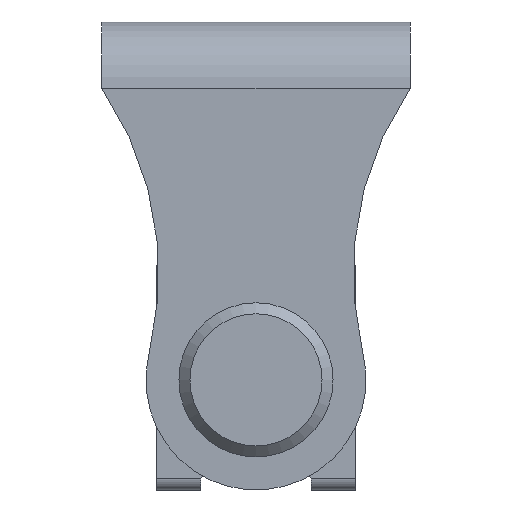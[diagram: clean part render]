
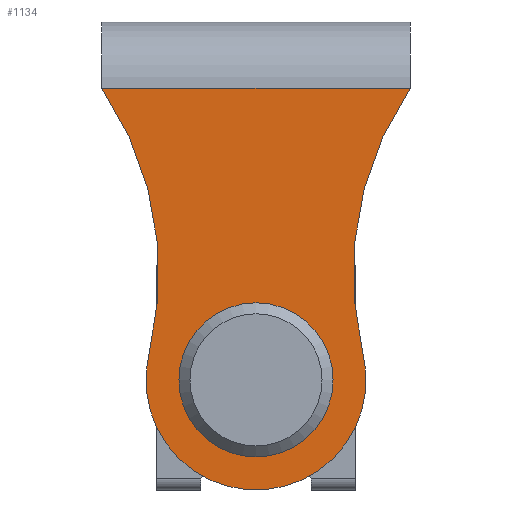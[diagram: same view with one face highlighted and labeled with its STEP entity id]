
A CAD part, left-side view. The second image highlights one B-rep face of the part: STEP entity #1134.
In plain terms, the highlighted planar face has unit normal (-1, 0, 0).
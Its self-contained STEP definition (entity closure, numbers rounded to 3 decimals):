
#50=FACE_BOUND('',#192,.T.);
#66=PLANE('',#1231);
#113=FACE_OUTER_BOUND('',#191,.T.);
#191=EDGE_LOOP('',(#836,#837,#838,#839));
#192=EDGE_LOOP('',(#840));
#262=LINE('',#1737,#355);
#355=VECTOR('',#1363,28.);
#463=CIRCLE('',#1228,5.);
#465=CIRCLE('',#1232,30.);
#466=CIRCLE('',#1233,10.);
#467=CIRCLE('',#1234,30.);
#508=VERTEX_POINT('',#1715);
#516=VERTEX_POINT('',#1735);
#531=VERTEX_POINT('',#1786);
#533=VERTEX_POINT('',#1792);
#534=VERTEX_POINT('',#1794);
#627=EDGE_CURVE('',#516,#508,#262,.T.);
#651=EDGE_CURVE('',#531,#531,#463,.T.);
#653=EDGE_CURVE('',#516,#533,#465,.T.);
#654=EDGE_CURVE('',#533,#534,#466,.T.);
#655=EDGE_CURVE('',#534,#508,#467,.T.);
#836=ORIENTED_EDGE('',*,*,#627,.F.);
#837=ORIENTED_EDGE('',*,*,#653,.T.);
#838=ORIENTED_EDGE('',*,*,#654,.T.);
#839=ORIENTED_EDGE('',*,*,#655,.T.);
#840=ORIENTED_EDGE('',*,*,#651,.T.);
#1134=ADVANCED_FACE('',(#113,#50),#66,.F.);
#1228=AXIS2_PLACEMENT_3D('',#1787,#1424,#1425);
#1231=AXIS2_PLACEMENT_3D('',#1791,#1430,#1431);
#1232=AXIS2_PLACEMENT_3D('',#1793,#1432,#1433);
#1233=AXIS2_PLACEMENT_3D('',#1795,#1434,#1435);
#1234=AXIS2_PLACEMENT_3D('',#1796,#1436,#1437);
#1363=DIRECTION('',(0.,-1.,0.));
#1424=DIRECTION('center_axis',(1.,0.,0.));
#1425=DIRECTION('ref_axis',(0.,-1.,0.));
#1430=DIRECTION('center_axis',(1.,0.,0.));
#1431=DIRECTION('ref_axis',(0.,0.,-1.));
#1432=DIRECTION('center_axis',(1.,0.,0.));
#1433=DIRECTION('ref_axis',(0.,-0.827,0.562));
#1434=DIRECTION('center_axis',(-1.,0.,0.));
#1435=DIRECTION('ref_axis',(0.,0.97,-0.241));
#1436=DIRECTION('center_axis',(1.,0.,0.));
#1437=DIRECTION('ref_axis',(0.,0.97,-0.241));
#1715=CARTESIAN_POINT('',(-19.,-14.,26.5));
#1735=CARTESIAN_POINT('',(-19.,14.,26.5));
#1737=CARTESIAN_POINT('',(-19.,7.,26.5));
#1786=CARTESIAN_POINT('',(-19.,5.,0.));
#1787=CARTESIAN_POINT('Origin',(-19.,0.,0.));
#1791=CARTESIAN_POINT('Origin',(-19.,0.,15.963));
#1792=CARTESIAN_POINT('',(-19.,9.705,2.412));
#1793=CARTESIAN_POINT('Origin',(-19.,38.819,9.647));
#1794=CARTESIAN_POINT('',(-19.,-9.705,2.412));
#1795=CARTESIAN_POINT('Origin',(-19.,0.,0.));
#1796=CARTESIAN_POINT('Origin',(-19.,-38.819,9.647));
